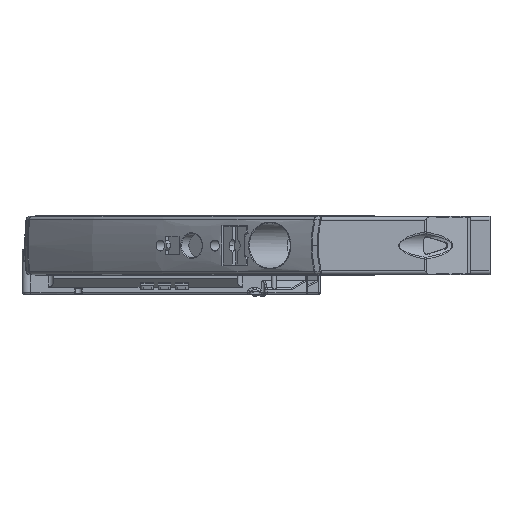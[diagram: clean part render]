
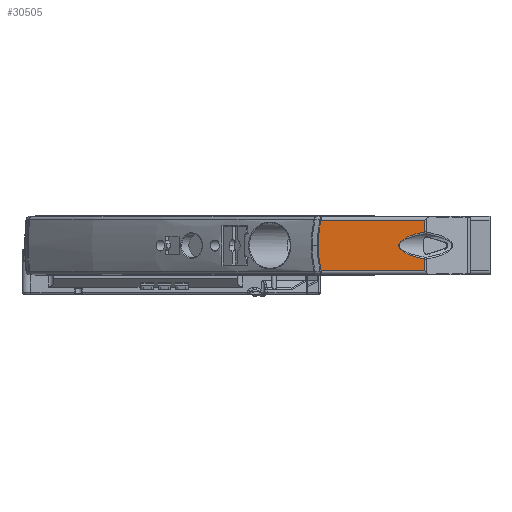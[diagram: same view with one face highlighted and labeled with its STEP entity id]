
A CAD part, left-side view. The second image highlights one B-rep face of the part: STEP entity #30505.
In plain terms, the highlighted planar face has unit normal (-1, 0, 0).
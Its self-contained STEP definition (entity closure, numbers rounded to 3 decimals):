
#8629=CARTESIAN_POINT('',(-40.,7.214,-2.88));
#8630=CARTESIAN_POINT('',(-40.,7.512,
-2.824));
#8631=CARTESIAN_POINT('',(-40.,8.072,
-2.707));
#8632=CARTESIAN_POINT('',(-40.,8.801,
-2.527));
#8633=CARTESIAN_POINT('',(-40.,9.438,
-2.346));
#8634=CARTESIAN_POINT('',(-40.,9.991,
-2.164));
#8635=CARTESIAN_POINT('',(-40.,10.469,
-1.984));
#8636=CARTESIAN_POINT('',(-40.,10.881,
-1.808));
#8637=CARTESIAN_POINT('',(-40.,11.234,-1.635));
#8638=CARTESIAN_POINT('',(-40.,11.533,-1.468));
#8639=CARTESIAN_POINT('',(-40.,11.784,-1.307));
#8640=CARTESIAN_POINT('',(-40.,11.994,-1.153));
#8641=CARTESIAN_POINT('',(-40.,12.165,-1.007));
#8642=CARTESIAN_POINT('',(-40.,12.304,-0.869));
#8643=CARTESIAN_POINT('',(-40.,12.413,-0.741));
#8644=CARTESIAN_POINT('',(-40.,12.499,-0.62));
#8645=CARTESIAN_POINT('',(-40.,12.566,-0.507));
#8646=CARTESIAN_POINT('',(-40.,12.617,-0.399));
#8647=CARTESIAN_POINT('',(-40.,12.654,-0.296));
#8648=CARTESIAN_POINT('',(-40.,12.68,-0.195));
#8649=CARTESIAN_POINT('',(-40.,12.695,-0.097));
#8650=CARTESIAN_POINT('',(-40.,12.699,0.));
#8651=CARTESIAN_POINT('',(-40.,12.695,0.097));
#8652=CARTESIAN_POINT('',(-40.,12.68,0.195));
#8653=CARTESIAN_POINT('',(-40.,12.655,0.295));
#8654=CARTESIAN_POINT('',(-40.,12.617,0.398));
#8655=CARTESIAN_POINT('',(-40.,12.567,0.506));
#8656=CARTESIAN_POINT('',(-40.,12.5,0.619));
#8657=CARTESIAN_POINT('',(-40.,12.414,0.74));
#8658=CARTESIAN_POINT('',(-40.,12.304,0.868));
#8659=CARTESIAN_POINT('',(-40.,12.166,1.006));
#8660=CARTESIAN_POINT('',(-40.,11.995,1.152));
#8661=CARTESIAN_POINT('',(-40.,11.786,1.306));
#8662=CARTESIAN_POINT('',(-40.,11.534,1.467));
#8663=CARTESIAN_POINT('',(-40.,11.235,1.635));
#8664=CARTESIAN_POINT('',(-40.,10.883,1.807));
#8665=CARTESIAN_POINT('',(-40.,10.471,1.984));
#8666=CARTESIAN_POINT('',(-40.,9.992,2.164));
#8667=CARTESIAN_POINT('',(-40.,9.439,2.345));
#8668=CARTESIAN_POINT('',(-40.,8.802,2.527));
#8669=CARTESIAN_POINT('',(-40.,8.072,2.707));
#8670=CARTESIAN_POINT('',(-40.,7.512,2.824));
#8671=CARTESIAN_POINT('',(-40.,7.214,2.88));
#8673=CARTESIAN_POINT('',(-40.,7.214,2.88));
#8691=CARTESIAN_POINT('',(-40.,7.214,-2.88));
#8703=DIRECTION('',(0.,0.,1.));
#8704=VECTOR('',#8703,2.47);
#8705=CARTESIAN_POINT('',(-40.,7.214,-5.35));
#8706=LINE('',#8705,#8704);
#8707=DIRECTION('',(0.,-1.,0.));
#8708=VECTOR('',#8707,21.831);
#8709=CARTESIAN_POINT('',(-40.,29.046,
-5.35));
#8710=LINE('',#8709,#8708);
#8737=CARTESIAN_POINT('',(-40.,29.046,
-5.35));
#8738=CARTESIAN_POINT('',(-40.,29.125,
-4.998));
#8739=CARTESIAN_POINT('',(-40.,29.268,
-4.29));
#8740=CARTESIAN_POINT('',(-40.,29.435,
-3.219));
#8741=CARTESIAN_POINT('',(-40.,29.554,
-2.145));
#8742=CARTESIAN_POINT('',(-40.,29.626,
-1.072));
#8743=CARTESIAN_POINT('',(-40.,29.642,
-0.357));
#8744=CARTESIAN_POINT('',(-40.,29.642,
0.));
#8746=CARTESIAN_POINT('',(-40.,29.642,
0.));
#8747=CARTESIAN_POINT('',(-40.,29.642,
0.36));
#8748=CARTESIAN_POINT('',(-40.,29.626,1.079));
#8749=CARTESIAN_POINT('',(-40.,29.553,2.156));
#8750=CARTESIAN_POINT('',(-40.,29.434,3.228));
#8751=CARTESIAN_POINT('',(-40.,29.267,4.294));
#8752=CARTESIAN_POINT('',(-40.,29.125,4.999));
#8753=CARTESIAN_POINT('',(-40.,29.046,5.35));
#8776=DIRECTION('',(0.,1.,0.));
#8777=VECTOR('',#8776,21.831);
#8778=CARTESIAN_POINT('',(-40.,7.214,5.35));
#8779=LINE('',#8778,#8777);
#8780=DIRECTION('',(0.,0.,1.));
#8781=VECTOR('',#8780,2.47);
#8782=CARTESIAN_POINT('',(-40.,7.214,2.88));
#8783=LINE('',#8782,#8781);
#17527=VERTEX_POINT('',#8673);
#17529=VERTEX_POINT('',#8691);
#17567=CARTESIAN_POINT('',(-40.,7.214,5.35));
#17568=VERTEX_POINT('',#17567);
#17569=CARTESIAN_POINT('',(-40.,29.046,
5.35));
#17570=VERTEX_POINT('',#17569);
#17571=CARTESIAN_POINT('',(-40.,7.214,-5.35));
#17572=VERTEX_POINT('',#17571);
#17573=CARTESIAN_POINT('',(-40.,29.046,
-5.35));
#17574=VERTEX_POINT('',#17573);
#17575=VERTEX_POINT('',#8744);
#30487=CARTESIAN_POINT('',(-40.,91.5,-6.15));
#30488=DIRECTION('',(-1.,0.,0.));
#30489=DIRECTION('',(0.,-1.,0.));
#30490=AXIS2_PLACEMENT_3D('',#30487,#30488,#30489);
#30491=PLANE('',#30490);
#30493=ORIENTED_EDGE('',*,*,#30492,.F.);
#30495=ORIENTED_EDGE('',*,*,#30494,.F.);
#30496=ORIENTED_EDGE('',*,*,#30399,.F.);
#30497=ORIENTED_EDGE('',*,*,#30467,.F.);
#30498=ORIENTED_EDGE('',*,*,#30477,.F.);
#30500=ORIENTED_EDGE('',*,*,#30499,.T.);
#30502=ORIENTED_EDGE('',*,*,#30501,.T.);
#30503=EDGE_LOOP('',(#30493,#30495,#30496,#30497,#30498,#30500,#30502));
#30504=FACE_OUTER_BOUND('',#30503,.F.);
#8672=B_SPLINE_CURVE_WITH_KNOTS('',3,(#8629,#8630,#8631,#8632,#8633,#8634,#8635,
#8636,#8637,#8638,#8639,#8640,#8641,#8642,#8643,#8644,#8645,#8646,#8647,#8648,
#8649,#8650,#8651,#8652,#8653,#8654,#8655,#8656,#8657,#8658,#8659,#8660,#8661,
#8662,#8663,#8664,#8665,#8666,#8667,#8668,#8669,#8670,#8671),.UNSPECIFIED.,.F.,
.F.,(4,1,1,1,1,1,1,1,1,1,1,1,1,1,1,1,1,1,1,1,1,1,1,1,1,1,1,1,1,1,1,1,1,1,1,1,1,
1,1,1,4),(0.,0.025,0.05,0.075,0.1,0.125,0.15,0.175,0.2,0.225,
0.25,0.275,0.3,0.325,0.35,0.375,0.4,0.425,0.45,0.475,0.5,
0.525,0.55,0.575,0.6,0.625,0.65,0.675,0.7,0.725,0.75,
0.775,0.8,0.825,0.85,0.875,0.9,0.925,0.95,0.975,1.),
.UNSPECIFIED.);
#8745=B_SPLINE_CURVE_WITH_KNOTS('',3,(#8737,#8738,#8739,#8740,#8741,#8742,#8743,
#8744),.UNSPECIFIED.,.F.,.F.,(4,1,1,1,1,4),(0.,0.2,0.4,0.6,0.8,1.),
.UNSPECIFIED.);
#8754=B_SPLINE_CURVE_WITH_KNOTS('',3,(#8746,#8747,#8748,#8749,#8750,#8751,#8752,
#8753),.UNSPECIFIED.,.F.,.F.,(4,1,1,1,1,4),(0.,0.2,0.4,0.6,0.8,1.),
.UNSPECIFIED.);
#30399=EDGE_CURVE('',#17529,#17527,#8672,.T.);
#30467=EDGE_CURVE('',#17572,#17529,#8706,.T.);
#30477=EDGE_CURVE('',#17574,#17572,#8710,.T.);
#30492=EDGE_CURVE('',#17568,#17570,#8779,.T.);
#30494=EDGE_CURVE('',#17527,#17568,#8783,.T.);
#30499=EDGE_CURVE('',#17574,#17575,#8745,.T.);
#30501=EDGE_CURVE('',#17575,#17570,#8754,.T.);
#30505=ADVANCED_FACE('',(#30504),#30491,.T.);
